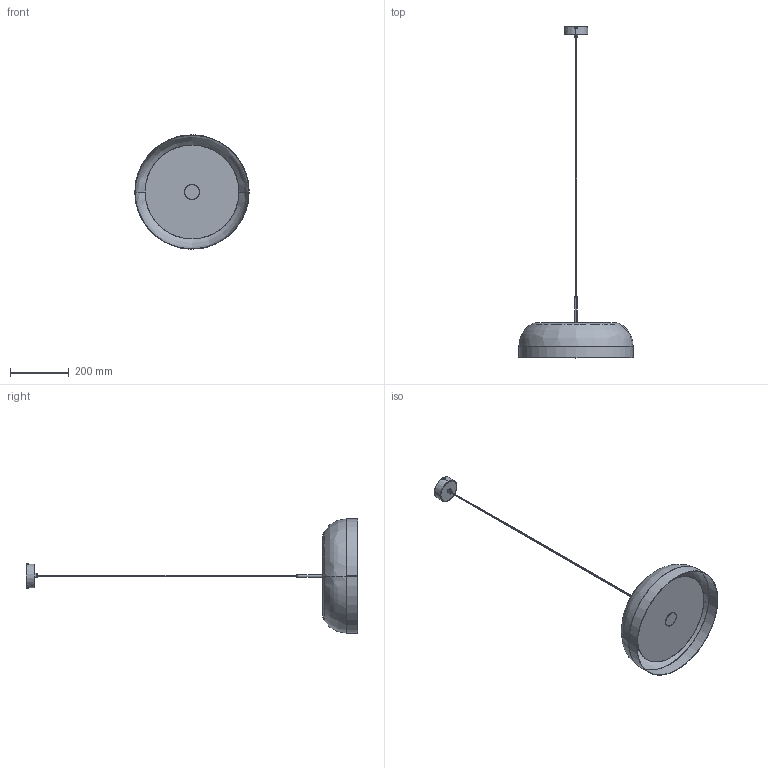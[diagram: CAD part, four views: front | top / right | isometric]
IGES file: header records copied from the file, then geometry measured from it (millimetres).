
Start section: SolidWorks IGES file using analytic representation for surfaces
Global section: file name: E:\3D lampy\Bowl\Bowl zwis M\BOWL_5078.IGS; native system: SolidWorks 2016; preprocessor: SolidWorks 2016; author: Asia; date: 161020.123816; units: millimetre
Bounding box: 390 x 1133.2 x 390 mm (x, y, z)
Surface area: 783000.4 mm2 (no closed solid volume)
Topology: 0 solids, 0 shells, 879 faces, 9529 edges, 9491 vertices
Faces by surface type: bspline 495, revolution 384
